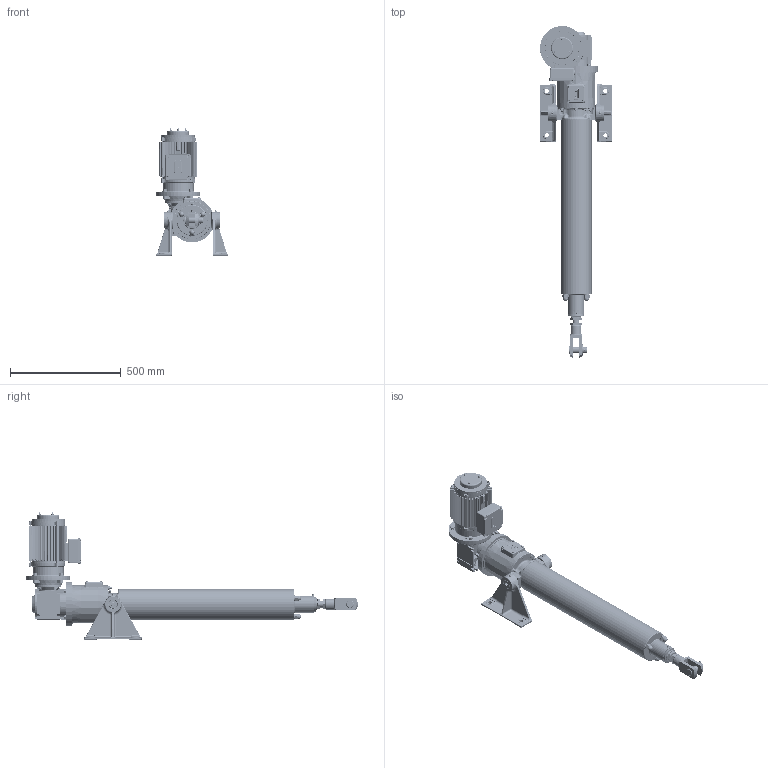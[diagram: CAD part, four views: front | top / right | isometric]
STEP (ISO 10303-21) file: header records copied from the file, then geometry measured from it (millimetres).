
FILE_DESCRIPTION( ( '153-599-4' ), '1' );
FILE_NAME( 'C:/daten/bearbeitung katalogbilder/RBs rendern/austausch pomplun/mit identnr/T1T6-0600-160-225-0.stp', 'Unknown', ( 'Christoph Hahmann' ), ( 'RACO-ELEKTRO-MASCHINEN GmbH' ), 'PSStep 17.0.49', 'Solid Edge ST 7', ' ' );
FILE_SCHEMA( ( 'AUTOMOTIVE_DESIGN { 1 0 10303 214 1 1 1 1 }' ) );
Length unit declared in the file: millimetre
Products named in the file (13): Assem1; 03.01-06 kpl; 02.14-06-0600; 01.15-06-0600; 02.01-06 kpl; 01.14-06 kpl2; 01.01-06 Gabelkopf; 03.65-06-7; 10.02-04-08 105-983-12; 100-127-2; Schnecke EZ6-90; 04.01-05-7-155; BGR 6-7
Assembly tree (13 placements, depth 2):
  Assem1
    03.01-06 kpl
    02.14-06-0600
    01.15-06-0600
    02.01-06 kpl
    01.14-06 kpl2
    01.01-06 Gabelkopf
    03.65-06-7  x2
    10.02-04-08 105-983-12
    100-127-2
    Schnecke EZ6-90
    04.01-05-7-155
    BGR 6-7
Bounding box: 325.5 x 1499 x 575.5 mm (x, y, z)
Surface area: 2389006.7 mm2 (no closed solid volume)
Topology: 0 solids, 6911 shells, 6911 faces, 35954 edges, 35004 vertices
Faces by surface type: plane 3473, cylinder 1688, bspline 517, cone 484, torus 391, sphere 189, extrusion 164, revolution 5
Full cylindrical faces by diameter (mm): 1.6 x2, 2 x3, 2.459 x12, 3 x4, 3.242 x16, 4 x2, 4.02 x4, 4.134 x19, 4.5 x2, 4.773 x6, 4.917 x6, 5 x16, 5.3 x3, 5.4 x4, 5.5 x8, 5.7 x7, 6 x12, 6.4 x2, 6.647 x7, 7 x11, 7.33 x1, 7.5 x3, 7.99 x8, 8 x27, 8.15 x1, 8.2 x1, 8.376 x4, 8.4 x2, 8.9 x4, 9 x6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
Entity records: 488142 total; most frequent: CARTESIAN_POINT 178602, DIRECTION 55001, VERTEX_POINT 33940, ORIENTED_EDGE 33876, EDGE_CURVE 33876, AXIS2_PLACEMENT_3D 18974, VECTOR 17048, LINE 16884
